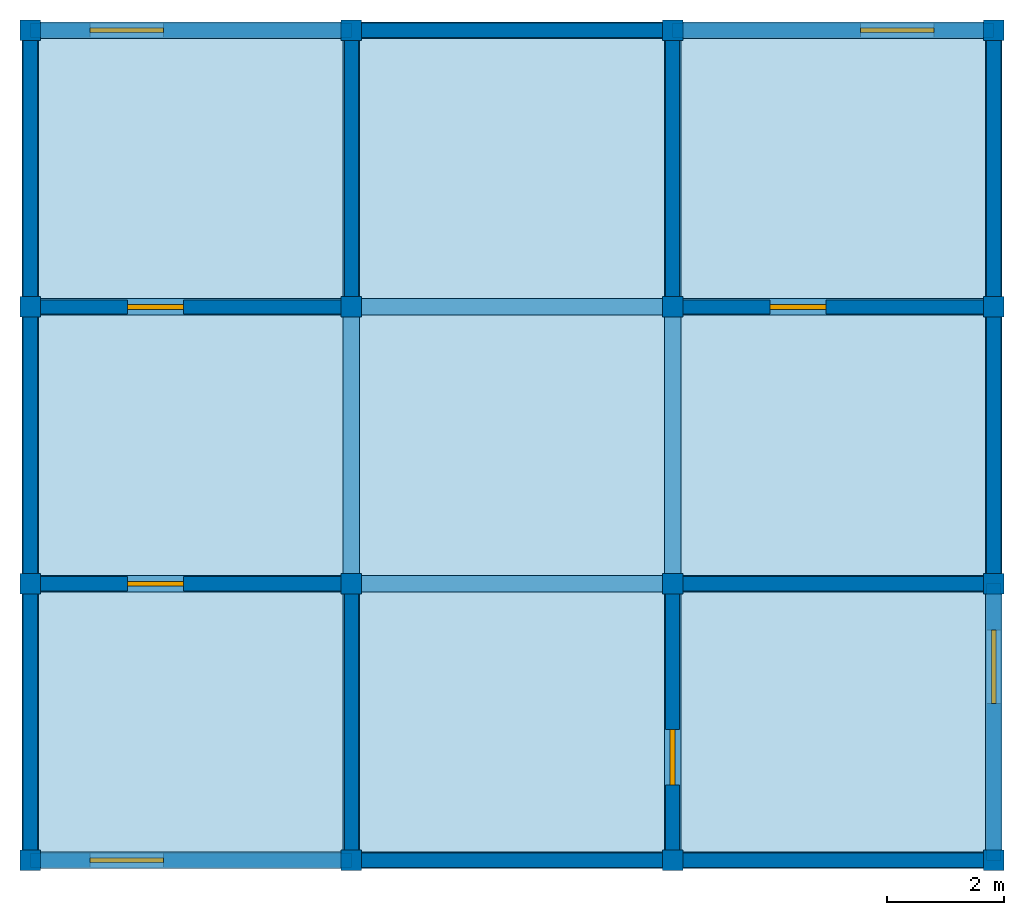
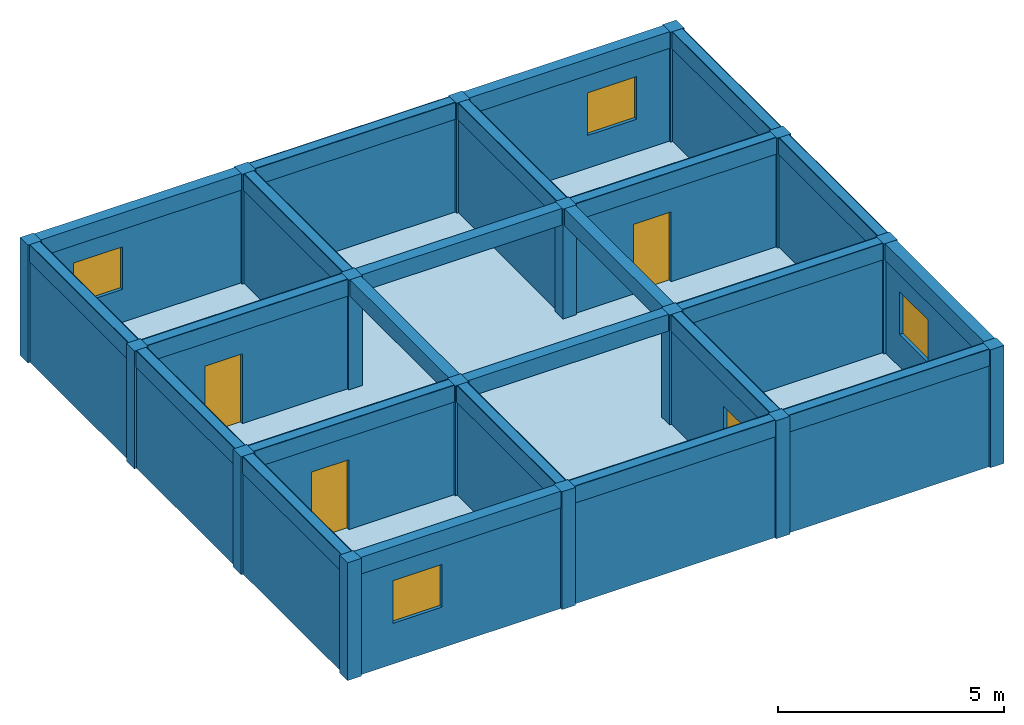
# One storey: 24 beams, 20 walls, 16 columns, 4 doors, 4 windows, 1 slab, 8 openings.
"""IFC4X3 building model written with IfcOpenShell, lengths in metres."""

from ifc_helpers import new_model, si_unit, frame, origin_with_axes, origin_2d, place, context, project, spatial, rectangle, extrude, material, element, fill, save


model = new_model("IFC4X3")

# Units and contexts
model_context = context("Model", 3, precision=1e-05, world=origin_with_axes())
ifc_project = project(units=[si_unit("LENGTHUNIT", "METRE"), si_unit("AREAUNIT", "SQUARE_METRE"), si_unit("VOLUMEUNIT", "CUBIC_METRE")], contexts=[model_context])

# Site, building, storey
site = spatial("IfcSite", under=ifc_project, Name="Antofagasta Parcel", CompositionType="ELEMENT")
building = spatial("IfcBuilding", under=site, Name="Nexo Block", CompositionType="ELEMENT")
storey = spatial("IfcBuildingStorey", under=building, Name="Level 5", CompositionType="ELEMENT", Elevation=12.72)

# Columns
ifc_material_1 = material(Name="Concrete")
column_1_placement = place(None, frame((-8.2, -7.065, 12.723), z_axis=(0.0, 0.0, 1.0), x_axis=(1.0, 0.0, 0.0)))
element("IfcColumn", 1, at=column_1_placement, inside=storey, material=ifc_material_1, Name="Column 5.1", ObjectType="Structural Column", PredefinedType="COLUMN", context=model_context, shape_type="SweptSolid", body=[
    extrude(rectangle(XDim=0.35, YDim=0.35, at=origin_2d()), origin_with_axes(), (0.0, 0.0, 1.0), 3.181),
])
column_2_placement = place(None, frame((-8.2, -2.355, 12.723), z_axis=(0.0, 0.0, 1.0), x_axis=(1.0, 0.0, 0.0)))
element("IfcColumn", 2, at=column_2_placement, inside=storey, material=ifc_material_1, Name="Column 5.2", ObjectType="Structural Column", PredefinedType="USERDEFINED", context=model_context, shape_type="SweptSolid", body=[
    extrude(rectangle(XDim=0.35, YDim=0.35, at=origin_2d()), origin_with_axes(), (0.0, 0.0, 1.0), 3.181),
])
column_3_placement = place(None, frame((-8.2, 2.355, 12.723), z_axis=(0.0, 0.0, 1.0), x_axis=(1.0, 0.0, 0.0)))
element("IfcColumn", 3, at=column_3_placement, inside=storey, material=ifc_material_1, Name="Column 5.3", ObjectType="Corner Column", PredefinedType="USERDEFINED", context=model_context, shape_type="SweptSolid", body=[
    extrude(rectangle(XDim=0.35, YDim=0.35, at=origin_2d()), origin_with_axes(), (0.0, 0.0, 1.0), 3.181),
])
column_4_placement = place(None, frame((-8.2, 7.065, 12.723), z_axis=(0.0, 0.0, 1.0), x_axis=(1.0, 0.0, 0.0)))
element("IfcColumn", 4, at=column_4_placement, inside=storey, material=ifc_material_1, Name="Column 5.4", ObjectType="Structural Column", PredefinedType="USERDEFINED", context=model_context, shape_type="SweptSolid", body=[
    extrude(rectangle(XDim=0.35, YDim=0.35, at=origin_2d()), origin_with_axes(), (0.0, 0.0, 1.0), 3.181),
])
column_5_placement = place(None, frame((-2.733, -7.065, 12.723), z_axis=(0.0, 0.0, 1.0), x_axis=(1.0, 0.0, 0.0)))
element("IfcColumn", 5, at=column_5_placement, inside=storey, material=ifc_material_1, Name="Column 5.5", ObjectType="Structural Column", PredefinedType="PILASTER", context=model_context, shape_type="SweptSolid", body=[
    extrude(rectangle(XDim=0.35, YDim=0.35, at=origin_2d()), origin_with_axes(), (0.0, 0.0, 1.0), 3.181),
])
column_6_placement = place(None, frame((-2.733, -2.355, 12.723), z_axis=(0.0, 0.0, 1.0), x_axis=(1.0, 0.0, 0.0)))
element("IfcColumn", 6, at=column_6_placement, inside=storey, material=ifc_material_1, Name="Column 5.6", ObjectType="Corner Column", PredefinedType="PILASTER", context=model_context, shape_type="SweptSolid", body=[
    extrude(rectangle(XDim=0.35, YDim=0.35, at=origin_2d()), origin_with_axes(), (0.0, 0.0, 1.0), 3.181),
])
column_7_placement = place(None, frame((-2.733, 2.355, 12.723), z_axis=(0.0, 0.0, 1.0), x_axis=(1.0, 0.0, 0.0)))
element("IfcColumn", 7, at=column_7_placement, inside=storey, material=ifc_material_1, Name="Column 5.7", ObjectType="Corner Column", PredefinedType="USERDEFINED", context=model_context, shape_type="SweptSolid", body=[
    extrude(rectangle(XDim=0.35, YDim=0.35, at=origin_2d()), origin_with_axes(), (0.0, 0.0, 1.0), 3.181),
])
column_8_placement = place(None, frame((-2.733, 7.065, 12.723), z_axis=(0.0, 0.0, 1.0), x_axis=(1.0, 0.0, 0.0)))
element("IfcColumn", 8, at=column_8_placement, inside=storey, material=ifc_material_1, Name="Column 5.8", ObjectType="Corner Column", PredefinedType="NOTDEFINED", context=model_context, shape_type="SweptSolid", body=[
    extrude(rectangle(XDim=0.35, YDim=0.35, at=origin_2d()), origin_with_axes(), (0.0, 0.0, 1.0), 3.181),
])
for number, where, z_axis, x_axis, name in (
    (9, (2.734, -7.065, 12.723), (0.0, 0.0, 1.0), (1.0, 0.0, 0.0), "Column 5.9"),
    (10, (2.734, -2.355, 12.723), (0.0, 0.0, 1.0), (1.0, 0.0, 0.0), "Column 5.10"),
):
    element("IfcColumn", number, at=place(None, frame(where, z_axis=z_axis, x_axis=x_axis)), inside=storey, material=ifc_material_1, Name=name, ObjectType="Facade Column", PredefinedType="PILASTER", context=model_context, shape_type="SweptSolid", body=[
        extrude(rectangle(XDim=0.35, YDim=0.35, at=origin_2d()), origin_with_axes(), (0.0, 0.0, 1.0), 3.181),
    ])
column_9_placement = place(None, frame((2.734, 2.355, 12.723), z_axis=(0.0, 0.0, 1.0), x_axis=(1.0, 0.0, 0.0)))
element("IfcColumn", 11, at=column_9_placement, inside=storey, material=ifc_material_1, Name="Column 5.11", ObjectType="Corner Column", PredefinedType="USERDEFINED", context=model_context, shape_type="SweptSolid", body=[
    extrude(rectangle(XDim=0.35, YDim=0.35, at=origin_2d()), origin_with_axes(), (0.0, 0.0, 1.0), 3.181),
])
column_10_placement = place(None, frame((2.734, 7.065, 12.723), z_axis=(0.0, 0.0, 1.0), x_axis=(1.0, 0.0, 0.0)))
element("IfcColumn", 12, at=column_10_placement, inside=storey, material=ifc_material_1, Name="Column 5.12", ObjectType="Structural Column", PredefinedType="COLUMN", context=model_context, shape_type="SweptSolid", body=[
    extrude(rectangle(XDim=0.35, YDim=0.35, at=origin_2d()), origin_with_axes(), (0.0, 0.0, 1.0), 3.181),
])
column_11_placement = place(None, frame((8.201, -7.065, 12.723), z_axis=(0.0, 0.0, 1.0), x_axis=(1.0, 0.0, 0.0)))
element("IfcColumn", 13, at=column_11_placement, inside=storey, material=ifc_material_1, Name="Column 5.13", ObjectType="Corner Column", PredefinedType="USERDEFINED", context=model_context, shape_type="SweptSolid", body=[
    extrude(rectangle(XDim=0.35, YDim=0.35, at=origin_2d()), origin_with_axes(), (0.0, 0.0, 1.0), 3.181),
])
column_12_placement = place(None, frame((8.201, -2.355, 12.723), z_axis=(0.0, 0.0, 1.0), x_axis=(1.0, 0.0, 0.0)))
element("IfcColumn", 14, at=column_12_placement, inside=storey, material=ifc_material_1, Name="Column 5.14", ObjectType="Facade Column", PredefinedType="NOTDEFINED", context=model_context, shape_type="SweptSolid", body=[
    extrude(rectangle(XDim=0.35, YDim=0.35, at=origin_2d()), origin_with_axes(), (0.0, 0.0, 1.0), 3.181),
])
column_13_placement = place(None, frame((8.201, 2.355, 12.723), z_axis=(0.0, 0.0, 1.0), x_axis=(1.0, 0.0, 0.0)))
element("IfcColumn", 15, at=column_13_placement, inside=storey, material=ifc_material_1, Name="Column 5.15", ObjectType="Core Column", PredefinedType="PILASTER", context=model_context, shape_type="SweptSolid", body=[
    extrude(rectangle(XDim=0.35, YDim=0.35, at=origin_2d()), origin_with_axes(), (0.0, 0.0, 1.0), 3.181),
])
column_14_placement = place(None, frame((8.201, 7.065, 12.723), z_axis=(0.0, 0.0, 1.0), x_axis=(1.0, 0.0, 0.0)))
element("IfcColumn", 16, at=column_14_placement, inside=storey, material=ifc_material_1, Name="Column 5.16", ObjectType="Structural Column", PredefinedType="USERDEFINED", context=model_context, shape_type="SweptSolid", body=[
    extrude(rectangle(XDim=0.35, YDim=0.35, at=origin_2d()), origin_with_axes(), (0.0, 0.0, 1.0), 3.181),
])

# Beams
ifc_material_2 = material(Name="Timber")
beam_1_placement = place(None, frame((-5.466, -7.065, 15.454), z_axis=(0.0, 0.0, 1.0), x_axis=(1.0, 0.0, 0.0)))
element("IfcBeam", 17, at=beam_1_placement, inside=storey, material=ifc_material_2, Name="Beam 5.1", ObjectType="Primary Beam", PredefinedType="JOIST", context=model_context, shape_type="SweptSolid", body=[
    extrude(rectangle(XDim=5.467, YDim=0.28, at=origin_2d()), origin_with_axes(), (0.0, 0.0, 1.0), 0.45),
])
for number, where, z_axis, x_axis, name in (
    (18, (0.0, -7.065, 15.454), (0.0, 0.0, 1.0), (1.0, 0.0, 0.0), "Beam 5.2"),
    (19, (5.468, -7.065, 15.454), (0.0, 0.0, 1.0), (1.0, 0.0, 0.0), "Beam 5.3"),
):
    element("IfcBeam", number, at=place(None, frame(where, z_axis=z_axis, x_axis=x_axis)), inside=storey, material=ifc_material_2, Name=name, ObjectType="Secondary Beam", PredefinedType="LINTEL", context=model_context, shape_type="SweptSolid", body=[
        extrude(rectangle(XDim=5.467, YDim=0.28, at=origin_2d()), origin_with_axes(), (0.0, 0.0, 1.0), 0.45),
    ])
beam_2_placement = place(None, frame((-5.466, -2.355, 15.454), z_axis=(0.0, 0.0, 1.0), x_axis=(1.0, 0.0, 0.0)))
element("IfcBeam", 20, at=beam_2_placement, inside=storey, material=ifc_material_2, Name="Beam 5.4", ObjectType="Rafter Beam", PredefinedType="LINTEL", context=model_context, shape_type="SweptSolid", body=[
    extrude(rectangle(XDim=5.467, YDim=0.28, at=origin_2d()), origin_with_axes(), (0.0, 0.0, 1.0), 0.45),
])
beam_3_placement = place(None, frame((0.0, -2.355, 15.454), z_axis=(0.0, 0.0, 1.0), x_axis=(1.0, 0.0, 0.0)))
element("IfcBeam", 21, at=beam_3_placement, inside=storey, material=ifc_material_2, Name="Beam 5.5", ObjectType="Secondary Beam", PredefinedType="SPANDREL", context=model_context, shape_type="SweptSolid", body=[
    extrude(rectangle(XDim=5.467, YDim=0.28, at=origin_2d()), origin_with_axes(), (0.0, 0.0, 1.0), 0.45),
])
beam_4_placement = place(None, frame((5.468, -2.355, 15.454), z_axis=(0.0, 0.0, 1.0), x_axis=(1.0, 0.0, 0.0)))
element("IfcBeam", 22, at=beam_4_placement, inside=storey, material=ifc_material_2, Name="Beam 5.6", ObjectType="Ridge Beam", PredefinedType="BEAM", context=model_context, shape_type="SweptSolid", body=[
    extrude(rectangle(XDim=5.467, YDim=0.28, at=origin_2d()), origin_with_axes(), (0.0, 0.0, 1.0), 0.45),
])
beam_5_placement = place(None, frame((-5.466, 2.355, 15.454), z_axis=(0.0, 0.0, 1.0), x_axis=(1.0, 0.0, 0.0)))
element("IfcBeam", 23, at=beam_5_placement, inside=storey, material=ifc_material_2, Name="Beam 5.7", ObjectType="Primary Beam", PredefinedType="JOIST", context=model_context, shape_type="SweptSolid", body=[
    extrude(rectangle(XDim=5.467, YDim=0.28, at=origin_2d()), origin_with_axes(), (0.0, 0.0, 1.0), 0.45),
])
beam_6_placement = place(None, frame((0.0, 2.355, 15.454), z_axis=(0.0, 0.0, 1.0), x_axis=(1.0, 0.0, 0.0)))
element("IfcBeam", 24, at=beam_6_placement, inside=storey, material=ifc_material_2, Name="Beam 5.8", ObjectType="Rafter Beam", PredefinedType="JOIST", context=model_context, shape_type="SweptSolid", body=[
    extrude(rectangle(XDim=5.467, YDim=0.28, at=origin_2d()), origin_with_axes(), (0.0, 0.0, 1.0), 0.45),
])
beam_7_placement = place(None, frame((5.468, 2.355, 15.454), z_axis=(0.0, 0.0, 1.0), x_axis=(1.0, 0.0, 0.0)))
element("IfcBeam", 25, at=beam_7_placement, inside=storey, material=ifc_material_2, Name="Beam 5.9", ObjectType="Rafter Beam", PredefinedType="NOTDEFINED", context=model_context, shape_type="SweptSolid", body=[
    extrude(rectangle(XDim=5.467, YDim=0.28, at=origin_2d()), origin_with_axes(), (0.0, 0.0, 1.0), 0.45),
])
beam_8_placement = place(None, frame((-5.466, 7.065, 15.454), z_axis=(0.0, 0.0, 1.0), x_axis=(1.0, 0.0, 0.0)))
element("IfcBeam", 26, at=beam_8_placement, inside=storey, material=ifc_material_2, Name="Beam 5.10", ObjectType="Rafter Beam", PredefinedType="JOIST", context=model_context, shape_type="SweptSolid", body=[
    extrude(rectangle(XDim=5.467, YDim=0.28, at=origin_2d()), origin_with_axes(), (0.0, 0.0, 1.0), 0.45),
])
beam_9_placement = place(None, frame((0.0, 7.065, 15.454), z_axis=(0.0, 0.0, 1.0), x_axis=(1.0, 0.0, 0.0)))
element("IfcBeam", 27, at=beam_9_placement, inside=storey, material=ifc_material_2, Name="Beam 5.11", ObjectType="Ridge Beam", PredefinedType="SPANDREL", context=model_context, shape_type="SweptSolid", body=[
    extrude(rectangle(XDim=5.467, YDim=0.28, at=origin_2d()), origin_with_axes(), (0.0, 0.0, 1.0), 0.45),
])
beam_10_placement = place(None, frame((5.468, 7.065, 15.454), z_axis=(0.0, 0.0, 1.0), x_axis=(1.0, 0.0, 0.0)))
element("IfcBeam", 28, at=beam_10_placement, inside=storey, material=ifc_material_2, Name="Beam 5.12", ObjectType="Primary Beam", PredefinedType="USERDEFINED", context=model_context, shape_type="SweptSolid", body=[
    extrude(rectangle(XDim=5.467, YDim=0.28, at=origin_2d()), origin_with_axes(), (0.0, 0.0, 1.0), 0.45),
])
beam_11_placement = place(None, frame((-8.2, -4.71, 15.454), z_axis=(0.0, 0.0, 1.0), x_axis=(0.0, 1.0, 0.0)))
element("IfcBeam", 29, at=beam_11_placement, inside=storey, material=ifc_material_2, Name="Beam 5.13", ObjectType="Transfer Beam", PredefinedType="T_BEAM", context=model_context, shape_type="SweptSolid", body=[
    extrude(rectangle(XDim=4.71, YDim=0.28, at=origin_2d()), origin_with_axes(), (0.0, 0.0, 1.0), 0.45),
])
beam_12_placement = place(None, frame((-8.2, 0.0, 15.454), z_axis=(0.0, 0.0, 1.0), x_axis=(0.0, 1.0, 0.0)))
element("IfcBeam", 30, at=beam_12_placement, inside=storey, material=ifc_material_2, Name="Beam 5.14", ObjectType="Transfer Beam", PredefinedType="JOIST", context=model_context, shape_type="SweptSolid", body=[
    extrude(rectangle(XDim=4.71, YDim=0.28, at=origin_2d()), origin_with_axes(), (0.0, 0.0, 1.0), 0.45),
])
beam_13_placement = place(None, frame((-8.2, 4.71, 15.454), z_axis=(0.0, 0.0, 1.0), x_axis=(0.0, 1.0, 0.0)))
element("IfcBeam", 31, at=beam_13_placement, inside=storey, material=ifc_material_2, Name="Beam 5.15", ObjectType="Ridge Beam", PredefinedType="NOTDEFINED", context=model_context, shape_type="SweptSolid", body=[
    extrude(rectangle(XDim=4.71, YDim=0.28, at=origin_2d()), origin_with_axes(), (0.0, 0.0, 1.0), 0.45),
])
beam_14_placement = place(None, frame((-2.733, -4.71, 15.454), z_axis=(0.0, 0.0, 1.0), x_axis=(0.0, 1.0, 0.0)))
element("IfcBeam", 32, at=beam_14_placement, inside=storey, material=ifc_material_2, Name="Beam 5.16", ObjectType="Ridge Beam", PredefinedType="JOIST", context=model_context, shape_type="SweptSolid", body=[
    extrude(rectangle(XDim=4.71, YDim=0.28, at=origin_2d()), origin_with_axes(), (0.0, 0.0, 1.0), 0.45),
])
beam_15_placement = place(None, frame((-2.733, 0.0, 15.454), z_axis=(0.0, 0.0, 1.0), x_axis=(0.0, 1.0, 0.0)))
element("IfcBeam", 33, at=beam_15_placement, inside=storey, material=ifc_material_2, Name="Beam 5.17", ObjectType="Rafter Beam", PredefinedType="BEAM", context=model_context, shape_type="SweptSolid", body=[
    extrude(rectangle(XDim=4.71, YDim=0.28, at=origin_2d()), origin_with_axes(), (0.0, 0.0, 1.0), 0.45),
])
beam_16_placement = place(None, frame((-2.733, 4.71, 15.454), z_axis=(0.0, 0.0, 1.0), x_axis=(0.0, 1.0, 0.0)))
element("IfcBeam", 34, at=beam_16_placement, inside=storey, material=ifc_material_2, Name="Beam 5.18", ObjectType="Transfer Beam", PredefinedType="USERDEFINED", context=model_context, shape_type="SweptSolid", body=[
    extrude(rectangle(XDim=4.71, YDim=0.28, at=origin_2d()), origin_with_axes(), (0.0, 0.0, 1.0), 0.45),
])
beam_17_placement = place(None, frame((2.734, -4.71, 15.454), z_axis=(0.0, 0.0, 1.0), x_axis=(0.0, 1.0, 0.0)))
element("IfcBeam", 35, at=beam_17_placement, inside=storey, material=ifc_material_2, Name="Beam 5.19", ObjectType="Ridge Beam", PredefinedType="JOIST", context=model_context, shape_type="SweptSolid", body=[
    extrude(rectangle(XDim=4.71, YDim=0.28, at=origin_2d()), origin_with_axes(), (0.0, 0.0, 1.0), 0.45),
])
beam_18_placement = place(None, frame((2.734, 0.0, 15.454), z_axis=(0.0, 0.0, 1.0), x_axis=(0.0, 1.0, 0.0)))
element("IfcBeam", 36, at=beam_18_placement, inside=storey, material=ifc_material_2, Name="Beam 5.20", ObjectType="Secondary Beam", PredefinedType="T_BEAM", context=model_context, shape_type="SweptSolid", body=[
    extrude(rectangle(XDim=4.71, YDim=0.28, at=origin_2d()), origin_with_axes(), (0.0, 0.0, 1.0), 0.45),
])
beam_19_placement = place(None, frame((2.734, 4.71, 15.454), z_axis=(0.0, 0.0, 1.0), x_axis=(0.0, 1.0, 0.0)))
element("IfcBeam", 37, at=beam_19_placement, inside=storey, material=ifc_material_2, Name="Beam 5.21", ObjectType="Rafter Beam", PredefinedType="HOLLOWCORE", context=model_context, shape_type="SweptSolid", body=[
    extrude(rectangle(XDim=4.71, YDim=0.28, at=origin_2d()), origin_with_axes(), (0.0, 0.0, 1.0), 0.45),
])
beam_20_placement = place(None, frame((8.201, -4.71, 15.454), z_axis=(0.0, 0.0, 1.0), x_axis=(0.0, 1.0, 0.0)))
element("IfcBeam", 38, at=beam_20_placement, inside=storey, material=ifc_material_2, Name="Beam 5.22", ObjectType="Rafter Beam", PredefinedType="SPANDREL", context=model_context, shape_type="SweptSolid", body=[
    extrude(rectangle(XDim=4.71, YDim=0.28, at=origin_2d()), origin_with_axes(), (0.0, 0.0, 1.0), 0.45),
])
beam_21_placement = place(None, frame((8.201, 0.0, 15.454), z_axis=(0.0, 0.0, 1.0), x_axis=(0.0, 1.0, 0.0)))
element("IfcBeam", 39, at=beam_21_placement, inside=storey, material=ifc_material_2, Name="Beam 5.23", ObjectType="Secondary Beam", PredefinedType="SPANDREL", context=model_context, shape_type="SweptSolid", body=[
    extrude(rectangle(XDim=4.71, YDim=0.28, at=origin_2d()), origin_with_axes(), (0.0, 0.0, 1.0), 0.45),
])
beam_22_placement = place(None, frame((8.201, 4.71, 15.454), z_axis=(0.0, 0.0, 1.0), x_axis=(0.0, 1.0, 0.0)))
element("IfcBeam", 40, at=beam_22_placement, inside=storey, material=ifc_material_2, Name="Beam 5.24", ObjectType="Transfer Beam", PredefinedType="USERDEFINED", context=model_context, shape_type="SweptSolid", body=[
    extrude(rectangle(XDim=4.71, YDim=0.28, at=origin_2d()), origin_with_axes(), (0.0, 0.0, 1.0), 0.45),
])

# Slab
slab_placement = place(None, frame((0.0, 0.0, 12.72), z_axis=(0.0, 0.0, 1.0), x_axis=(1.0, 0.0, 0.0)))
element("IfcSlab", 41, at=slab_placement, inside=storey, material=ifc_material_1, Name="Slab 5", ObjectType="Floor Slab", PredefinedType="FLOOR", context=model_context, shape_type="SweptSolid", body=[
    extrude(rectangle(XDim=16.4, YDim=14.13, at=origin_2d()), origin_with_axes(), (0.0, 0.0, 1.0), 0.22),
])

# Wall, opening, door
wall_1_placement = place(None, frame((-5.466, -2.355, 12.723), z_axis=(0.0, 0.0, 1.0), x_axis=(1.0, 0.0, 0.0)))
wall_1 = element("IfcWall", 42, at=wall_1_placement, inside=storey, material=ifc_material_1, Name="Wall 5.1", ObjectType="Corridor Partition", PredefinedType="USERDEFINED", context=model_context, shape_type="SweptSolid", body=[
    extrude(rectangle(XDim=5.467, YDim=0.244831, at=origin_2d()), origin_with_axes(), (0.0, 0.0, 1.0), 3.181),
])
opening_1_placement = place(None, frame((-6.066, -2.355, 12.723), z_axis=(0.0, 0.0, 1.0), x_axis=(1.0, 0.0, 0.0)))
opening_1 = element("IfcOpeningElement", 43, at=opening_1_placement, cuts=wall_1, Name="Door opening 5.1", ObjectType="Door Opening", PredefinedType="OPENING", context=model_context, shape_type="SweptSolid", body=[
    extrude(rectangle(XDim=0.95, YDim=0.324831, at=origin_2d()), origin_with_axes(), (0.0, 0.0, 1.0), 2.1),
])
door_1_placement = place(None, frame((-6.066, -2.355, 12.723), z_axis=(0.0, 0.0, 1.0), x_axis=(1.0, 0.0, 0.0)))
door_1 = element("IfcDoor", 44, at=door_1_placement, inside=storey, Name="Door 5.1", ObjectType="Interior Door", OverallHeight=2.1, OverallWidth=0.95, context=model_context, shape_type="SweptSolid", body=[
    extrude(rectangle(XDim=0.95, YDim=0.08, at=origin_2d()), origin_with_axes(), (0.0, 0.0, 1.0), 2.1),
])
fill(opening_1, door_1)

# Wall
wall_2_placement = place(None, frame((-2.7325, -4.71, 12.723), z_axis=(0.0, 0.0, 1.0), x_axis=(0.0, 1.0, 0.0)))
element("IfcWall", 45, at=wall_2_placement, inside=storey, material=ifc_material_1, Name="Wall 5.2", ObjectType="Corridor Partition", PredefinedType="PLUMBINGWALL", context=model_context, shape_type="SweptSolid", body=[
    extrude(rectangle(XDim=4.71, YDim=0.244831, at=origin_2d()), origin_with_axes(), (0.0, 0.0, 1.0), 3.181),
])

# Wall, opening, window
ifc_material_3 = material(Name="Brick")
wall_3_placement = place(None, frame((-5.466, -7.065, 12.723), z_axis=(0.0, 0.0, 1.0), x_axis=(1.0, 0.0, 0.0)))
wall_3 = element("IfcWall", 46, at=wall_3_placement, inside=storey, material=ifc_material_3, Name="Wall 5.3", ObjectType="Exterior Wall", PredefinedType="SHEAR", context=model_context, shape_type="SweptSolid", body=[
    extrude(rectangle(XDim=5.467, YDim=0.244831, at=origin_2d()), origin_with_axes(), (0.0, 0.0, 1.0), 3.181),
])
opening_2_placement = place(None, frame((-6.559, -7.065, 13.823), z_axis=(0.0, 0.0, 1.0), x_axis=(1.0, 0.0, 0.0)))
opening_2 = element("IfcOpeningElement", 47, at=opening_2_placement, cuts=wall_3, Name="Window opening 5.2", ObjectType="Window Opening", PredefinedType="OPENING", context=model_context, shape_type="SweptSolid", body=[
    extrude(rectangle(XDim=1.25, YDim=0.324831, at=origin_2d()), origin_with_axes(), (0.0, 0.0, 1.0), 1.15),
])
window_1_placement = place(None, frame((-6.559, -7.065, 13.823), z_axis=(0.0, 0.0, 1.0), x_axis=(1.0, 0.0, 0.0)))
window_1 = element("IfcWindow", 48, at=window_1_placement, inside=storey, Name="Window 5.2", ObjectType="Curtain Window", OverallHeight=1.15, OverallWidth=1.25, context=model_context, shape_type="SweptSolid", body=[
    extrude(rectangle(XDim=1.25, YDim=0.08, at=origin_2d()), origin_with_axes(), (0.0, 0.0, 1.0), 1.15),
])
fill(opening_2, window_1)

# Wall
wall_4_placement = place(None, frame((-8.1995, -4.71, 12.723), z_axis=(0.0, 0.0, 1.0), x_axis=(0.0, 1.0, 0.0)))
element("IfcWall", 49, at=wall_4_placement, inside=storey, material=ifc_material_3, Name="Wall 5.4", ObjectType="Exterior Wall", PredefinedType="PLUMBINGWALL", context=model_context, shape_type="SweptSolid", body=[
    extrude(rectangle(XDim=4.71, YDim=0.244831, at=origin_2d()), origin_with_axes(), (0.0, 0.0, 1.0), 3.181),
])

# Wall, opening, door
wall_5_placement = place(None, frame((2.7335, -4.71, 12.723), z_axis=(0.0, 0.0, 1.0), x_axis=(0.0, 1.0, 0.0)))
wall_5 = element("IfcWall", 50, at=wall_5_placement, inside=storey, material=ifc_material_1, Name="Wall 5.5", ObjectType="Corridor Partition", PredefinedType="SOLIDWALL", context=model_context, shape_type="SweptSolid", body=[
    extrude(rectangle(XDim=4.71, YDim=0.244831, at=origin_2d()), origin_with_axes(), (0.0, 0.0, 1.0), 3.181),
])
opening_3_placement = place(None, frame((2.733, -5.31, 12.723), z_axis=(0.0, 0.0, 1.0), x_axis=(0.0, 1.0, 0.0)))
opening_3 = element("IfcOpeningElement", 51, at=opening_3_placement, cuts=wall_5, Name="Door opening 5.3", ObjectType="Door Opening", PredefinedType="OPENING", context=model_context, shape_type="SweptSolid", body=[
    extrude(rectangle(XDim=0.95, YDim=0.324831, at=origin_2d()), origin_with_axes(), (0.0, 0.0, 1.0), 2.1),
])
door_2_placement = place(None, frame((2.733, -5.31, 12.723), z_axis=(0.0, 0.0, 1.0), x_axis=(0.0, 1.0, 0.0)))
door_2 = element("IfcDoor", 52, at=door_2_placement, inside=storey, Name="Door 5.3", ObjectType="Interior Door", OverallHeight=2.1, OverallWidth=0.95, context=model_context, shape_type="SweptSolid", body=[
    extrude(rectangle(XDim=0.95, YDim=0.08, at=origin_2d()), origin_with_axes(), (0.0, 0.0, 1.0), 2.1),
])
fill(opening_3, door_2)

# Walls
ifc_material_4 = material(Name="CLT")
wall_6_placement = place(None, frame((0.0, -7.065, 12.723), z_axis=(0.0, 0.0, 1.0), x_axis=(1.0, 0.0, 0.0)))
element("IfcWall", 53, at=wall_6_placement, inside=storey, material=ifc_material_4, Name="Wall 5.6", ObjectType="Exterior Wall", PredefinedType="USERDEFINED", context=model_context, shape_type="SweptSolid", body=[
    extrude(rectangle(XDim=5.467, YDim=0.244831, at=origin_2d()), origin_with_axes(), (0.0, 0.0, 1.0), 3.181),
])
wall_7_placement = place(None, frame((5.467, -2.355, 12.723), z_axis=(0.0, 0.0, 1.0), x_axis=(1.0, 0.0, 0.0)))
element("IfcWall", 54, at=wall_7_placement, inside=storey, material=ifc_material_1, Name="Wall 5.7", ObjectType="Corridor Partition", PredefinedType="SOLIDWALL", context=model_context, shape_type="SweptSolid", body=[
    extrude(rectangle(XDim=5.467, YDim=0.244831, at=origin_2d()), origin_with_axes(), (0.0, 0.0, 1.0), 3.181),
])

# Wall, opening, window
wall_8_placement = place(None, frame((8.2005, -4.71, 12.723), z_axis=(0.0, 0.0, 1.0), x_axis=(0.0, 1.0, 0.0)))
wall_8 = element("IfcWall", 55, at=wall_8_placement, inside=storey, material=ifc_material_1, Name="Wall 5.8", ObjectType="Exterior Wall", PredefinedType="SOLIDWALL", context=model_context, shape_type="SweptSolid", body=[
    extrude(rectangle(XDim=4.71, YDim=0.244831, at=origin_2d()), origin_with_axes(), (0.0, 0.0, 1.0), 3.181),
])
opening_4_placement = place(None, frame((8.2, -3.768, 13.823), z_axis=(0.0, 0.0, 1.0), x_axis=(0.0, 1.0, 0.0)))
opening_4 = element("IfcOpeningElement", 56, at=opening_4_placement, cuts=wall_8, Name="Window opening 5.4", ObjectType="Window Opening", PredefinedType="OPENING", context=model_context, shape_type="SweptSolid", body=[
    extrude(rectangle(XDim=1.25, YDim=0.324831, at=origin_2d()), origin_with_axes(), (0.0, 0.0, 1.0), 1.15),
])
window_2_placement = place(None, frame((8.2, -3.768, 13.823), z_axis=(0.0, 0.0, 1.0), x_axis=(0.0, 1.0, 0.0)))
window_2 = element("IfcWindow", 57, at=window_2_placement, inside=storey, Name="Window 5.4", ObjectType="Sliding Window", OverallHeight=1.15, OverallWidth=1.25, context=model_context, shape_type="SweptSolid", body=[
    extrude(rectangle(XDim=1.25, YDim=0.08, at=origin_2d()), origin_with_axes(), (0.0, 0.0, 1.0), 1.15),
])
fill(opening_4, window_2)

# Wall
wall_9_placement = place(None, frame((5.467, -7.065, 12.723), z_axis=(0.0, 0.0, 1.0), x_axis=(1.0, 0.0, 0.0)))
element("IfcWall", 58, at=wall_9_placement, inside=storey, material=ifc_material_1, Name="Wall 5.9", ObjectType="Exterior Wall", PredefinedType="POLYGONAL", context=model_context, shape_type="SweptSolid", body=[
    extrude(rectangle(XDim=5.467, YDim=0.244831, at=origin_2d()), origin_with_axes(), (0.0, 0.0, 1.0), 3.181),
])

# Wall, opening, door
wall_10_placement = place(None, frame((-5.466, 2.355, 12.723), z_axis=(0.0, 0.0, 1.0), x_axis=(1.0, 0.0, 0.0)))
wall_10 = element("IfcWall", 59, at=wall_10_placement, inside=storey, material=ifc_material_4, Name="Wall 5.10", ObjectType="Corridor Partition", PredefinedType="PARTITIONING", context=model_context, shape_type="SweptSolid", body=[
    extrude(rectangle(XDim=5.467, YDim=0.244831, at=origin_2d()), origin_with_axes(), (0.0, 0.0, 1.0), 3.181),
])
opening_5_placement = place(None, frame((-6.066, 2.355, 12.723), z_axis=(0.0, 0.0, 1.0), x_axis=(1.0, 0.0, 0.0)))
opening_5 = element("IfcOpeningElement", 60, at=opening_5_placement, cuts=wall_10, Name="Door opening 5.5", ObjectType="Door Opening", PredefinedType="OPENING", context=model_context, shape_type="SweptSolid", body=[
    extrude(rectangle(XDim=0.95, YDim=0.324831, at=origin_2d()), origin_with_axes(), (0.0, 0.0, 1.0), 2.1),
])
door_3_placement = place(None, frame((-6.066, 2.355, 12.723), z_axis=(0.0, 0.0, 1.0), x_axis=(1.0, 0.0, 0.0)))
door_3 = element("IfcDoor", 61, at=door_3_placement, inside=storey, Name="Door 5.5", ObjectType="Entry Door", OverallHeight=2.1, OverallWidth=0.95, context=model_context, shape_type="SweptSolid", body=[
    extrude(rectangle(XDim=0.95, YDim=0.08, at=origin_2d()), origin_with_axes(), (0.0, 0.0, 1.0), 2.1),
])
fill(opening_5, door_3)

# Wall
ifc_material_5 = material(Name="Gypsum")
wall_11_placement = place(None, frame((-8.1995, 0.0, 12.723), z_axis=(0.0, 0.0, 1.0), x_axis=(0.0, 1.0, 0.0)))
element("IfcWall", 62, at=wall_11_placement, inside=storey, material=ifc_material_5, Name="Wall 5.11", ObjectType="Exterior Wall", PredefinedType="SHEAR", context=model_context, shape_type="SweptSolid", body=[
    extrude(rectangle(XDim=4.71, YDim=0.244831, at=origin_2d()), origin_with_axes(), (0.0, 0.0, 1.0), 3.181),
])

# Wall, opening, door
wall_12_placement = place(None, frame((5.467, 2.355, 12.723), z_axis=(0.0, 0.0, 1.0), x_axis=(1.0, 0.0, 0.0)))
wall_12 = element("IfcWall", 63, at=wall_12_placement, inside=storey, material=ifc_material_3, Name="Wall 5.12", ObjectType="Corridor Partition", PredefinedType="PLUMBINGWALL", context=model_context, shape_type="SweptSolid", body=[
    extrude(rectangle(XDim=5.467, YDim=0.244831, at=origin_2d()), origin_with_axes(), (0.0, 0.0, 1.0), 3.181),
])
opening_6_placement = place(None, frame((4.867, 2.355, 12.723), z_axis=(0.0, 0.0, 1.0), x_axis=(1.0, 0.0, 0.0)))
opening_6 = element("IfcOpeningElement", 64, at=opening_6_placement, cuts=wall_12, Name="Door opening 5.7", ObjectType="Door Opening", PredefinedType="OPENING", context=model_context, shape_type="SweptSolid", body=[
    extrude(rectangle(XDim=0.95, YDim=0.324831, at=origin_2d()), origin_with_axes(), (0.0, 0.0, 1.0), 2.1),
])
door_4_placement = place(None, frame((4.867, 2.355, 12.723), z_axis=(0.0, 0.0, 1.0), x_axis=(1.0, 0.0, 0.0)))
door_4 = element("IfcDoor", 65, at=door_4_placement, inside=storey, Name="Door 5.7", ObjectType="Interior Door", OverallHeight=2.1, OverallWidth=0.95, context=model_context, shape_type="SweptSolid", body=[
    extrude(rectangle(XDim=0.95, YDim=0.08, at=origin_2d()), origin_with_axes(), (0.0, 0.0, 1.0), 2.1),
])
fill(opening_6, door_4)

# Wall
wall_13_placement = place(None, frame((8.2005, 0.0, 12.723), z_axis=(0.0, 0.0, 1.0), x_axis=(0.0, 1.0, 0.0)))
element("IfcWall", 66, at=wall_13_placement, inside=storey, material=ifc_material_4, Name="Wall 5.13", ObjectType="Exterior Wall", PredefinedType="USERDEFINED", context=model_context, shape_type="SweptSolid", body=[
    extrude(rectangle(XDim=4.71, YDim=0.244831, at=origin_2d()), origin_with_axes(), (0.0, 0.0, 1.0), 3.181),
])

# Wall, opening, window
wall_14_placement = place(None, frame((-5.466, 7.065, 12.723), z_axis=(0.0, 0.0, 1.0), x_axis=(1.0, 0.0, 0.0)))
wall_14 = element("IfcWall", 67, at=wall_14_placement, inside=storey, material=ifc_material_4, Name="Wall 5.14", ObjectType="Exterior Wall", PredefinedType="STANDARD", context=model_context, shape_type="SweptSolid", body=[
    extrude(rectangle(XDim=5.467, YDim=0.244831, at=origin_2d()), origin_with_axes(), (0.0, 0.0, 1.0), 3.181),
])
opening_7_placement = place(None, frame((-6.559, 7.065, 13.823), z_axis=(0.0, 0.0, 1.0), x_axis=(1.0, 0.0, 0.0)))
opening_7 = element("IfcOpeningElement", 68, at=opening_7_placement, cuts=wall_14, Name="Window opening 5.6", ObjectType="Window Opening", PredefinedType="OPENING", context=model_context, shape_type="SweptSolid", body=[
    extrude(rectangle(XDim=1.25, YDim=0.324831, at=origin_2d()), origin_with_axes(), (0.0, 0.0, 1.0), 1.15),
])
window_3_placement = place(None, frame((-6.559, 7.065, 13.823), z_axis=(0.0, 0.0, 1.0), x_axis=(1.0, 0.0, 0.0)))
window_3 = element("IfcWindow", 69, at=window_3_placement, inside=storey, Name="Window 5.6", ObjectType="Operable Window", OverallHeight=1.15, OverallWidth=1.25, context=model_context, shape_type="SweptSolid", body=[
    extrude(rectangle(XDim=1.25, YDim=0.08, at=origin_2d()), origin_with_axes(), (0.0, 0.0, 1.0), 1.15),
])
fill(opening_7, window_3)

# Walls
wall_15_placement = place(None, frame((-2.7325, 4.71, 12.723), z_axis=(0.0, 0.0, 1.0), x_axis=(0.0, 1.0, 0.0)))
element("IfcWall", 70, at=wall_15_placement, inside=storey, material=ifc_material_5, Name="Wall 5.15", ObjectType="Corridor Partition", PredefinedType="SHEAR", context=model_context, shape_type="SweptSolid", body=[
    extrude(rectangle(XDim=4.71, YDim=0.244831, at=origin_2d()), origin_with_axes(), (0.0, 0.0, 1.0), 3.181),
])
wall_16_placement = place(None, frame((-8.1995, 4.71, 12.723), z_axis=(0.0, 0.0, 1.0), x_axis=(0.0, 1.0, 0.0)))
element("IfcWall", 71, at=wall_16_placement, inside=storey, material=ifc_material_4, Name="Wall 5.16", ObjectType="Exterior Wall", PredefinedType="SOLIDWALL", context=model_context, shape_type="SweptSolid", body=[
    extrude(rectangle(XDim=4.71, YDim=0.244831, at=origin_2d()), origin_with_axes(), (0.0, 0.0, 1.0), 3.181),
])
wall_17_placement = place(None, frame((0.0, 7.065, 12.723), z_axis=(0.0, 0.0, 1.0), x_axis=(1.0, 0.0, 0.0)))
element("IfcWall", 72, at=wall_17_placement, inside=storey, material=ifc_material_1, Name="Wall 5.17", ObjectType="Exterior Wall", PredefinedType="MOVABLE", context=model_context, shape_type="SweptSolid", body=[
    extrude(rectangle(XDim=5.467, YDim=0.244831, at=origin_2d()), origin_with_axes(), (0.0, 0.0, 1.0), 3.181),
])
wall_18_placement = place(None, frame((2.7335, 4.71, 12.723), z_axis=(0.0, 0.0, 1.0), x_axis=(0.0, 1.0, 0.0)))
element("IfcWall", 73, at=wall_18_placement, inside=storey, material=ifc_material_4, Name="Wall 5.18", ObjectType="Corridor Partition", PredefinedType="PARTITIONING", context=model_context, shape_type="SweptSolid", body=[
    extrude(rectangle(XDim=4.71, YDim=0.244831, at=origin_2d()), origin_with_axes(), (0.0, 0.0, 1.0), 3.181),
])

# Wall, opening, window
wall_19_placement = place(None, frame((5.467, 7.065, 12.723), z_axis=(0.0, 0.0, 1.0), x_axis=(1.0, 0.0, 0.0)))
wall_19 = element("IfcWall", 74, at=wall_19_placement, inside=storey, material=ifc_material_1, Name="Wall 5.19", ObjectType="Exterior Wall", PredefinedType="PLUMBINGWALL", context=model_context, shape_type="SweptSolid", body=[
    extrude(rectangle(XDim=5.467, YDim=0.244831, at=origin_2d()), origin_with_axes(), (0.0, 0.0, 1.0), 3.181),
])
opening_8_placement = place(None, frame((6.56, 7.065, 13.823), z_axis=(0.0, 0.0, 1.0), x_axis=(1.0, 0.0, 0.0)))
opening_8 = element("IfcOpeningElement", 75, at=opening_8_placement, cuts=wall_19, Name="Window opening 5.8", ObjectType="Window Opening", PredefinedType="OPENING", context=model_context, shape_type="SweptSolid", body=[
    extrude(rectangle(XDim=1.25, YDim=0.324831, at=origin_2d()), origin_with_axes(), (0.0, 0.0, 1.0), 1.15),
])
window_4_placement = place(None, frame((6.56, 7.065, 13.823), z_axis=(0.0, 0.0, 1.0), x_axis=(1.0, 0.0, 0.0)))
window_4 = element("IfcWindow", 76, at=window_4_placement, inside=storey, Name="Window 5.8", ObjectType="Fixed Window", OverallHeight=1.15, OverallWidth=1.25, context=model_context, shape_type="SweptSolid", body=[
    extrude(rectangle(XDim=1.25, YDim=0.08, at=origin_2d()), origin_with_axes(), (0.0, 0.0, 1.0), 1.15),
])
fill(opening_8, window_4)

# Wall
wall_20_placement = place(None, frame((8.2005, 4.71, 12.723), z_axis=(0.0, 0.0, 1.0), x_axis=(0.0, 1.0, 0.0)))
element("IfcWall", 77, at=wall_20_placement, inside=storey, material=ifc_material_4, Name="Wall 5.20", ObjectType="Exterior Wall", PredefinedType="PLUMBINGWALL", context=model_context, shape_type="SweptSolid", body=[
    extrude(rectangle(XDim=4.71, YDim=0.244831, at=origin_2d()), origin_with_axes(), (0.0, 0.0, 1.0), 3.181),
])

save(model, "model.ifc")
